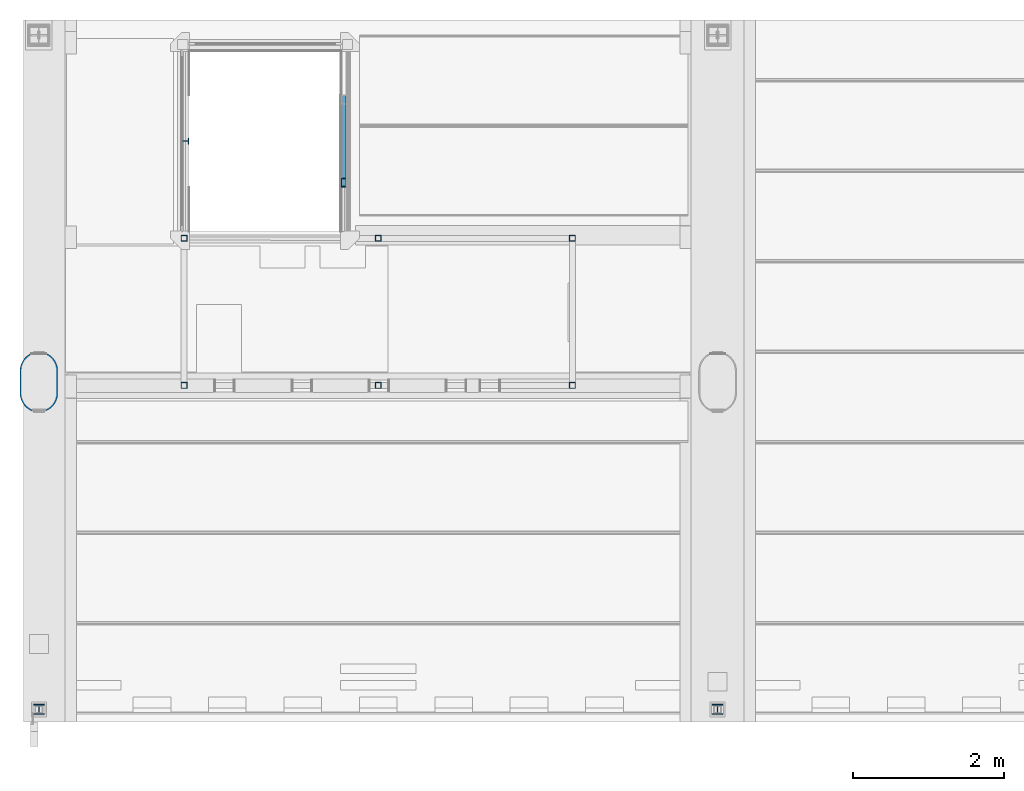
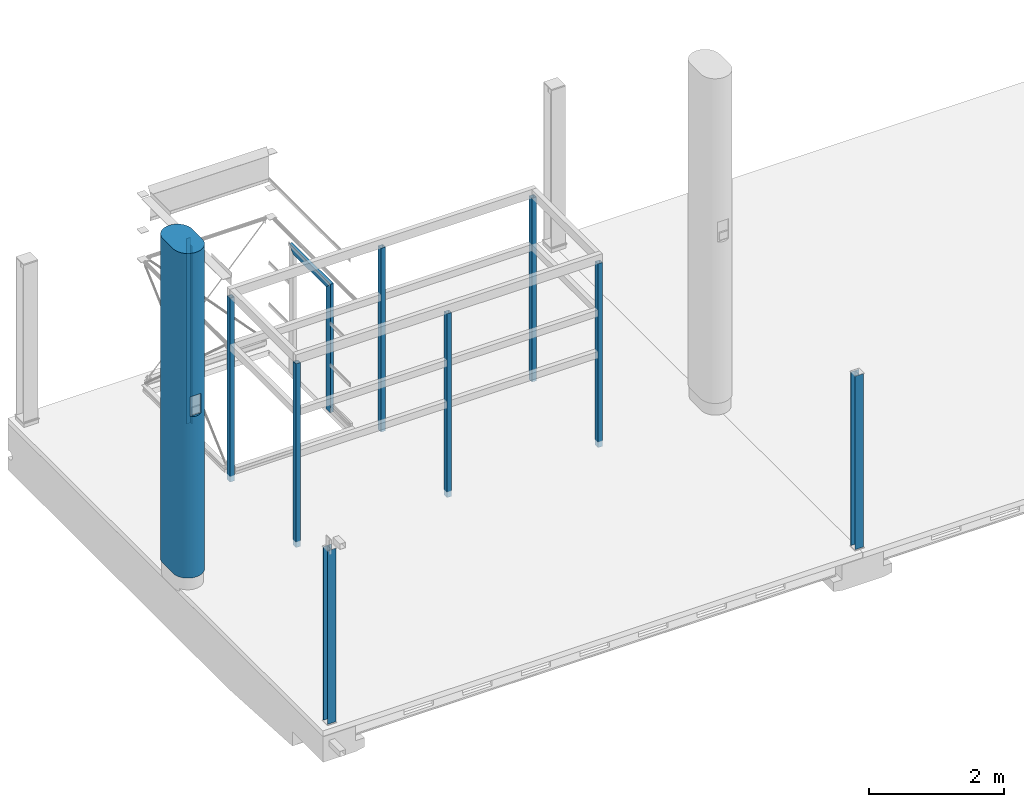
# One storey, part 1 of 15: 12 columns.
"""IFC2X3 building model written with IfcOpenShell, lengths in millimetres."""

from ifc_helpers import new_model, entity, si_unit, converted_unit, derived_unit, direction, frame, origin_with_axes, place, context, subcontext, project, spatial, faceted_brep, material, type_object, element, save


model = new_model("IFC2X3")

# Units and contexts
model_context = context("Model", 3, precision=0.01, world=frame((0.0, 4.29681676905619e-09, 0.0)), true_north=direction((4.01073788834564e-13, 1.0)))
plan_context = context("Plan", 3, precision=0.01, world=frame((0.0, 4.29681676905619e-09, 0.0)), true_north=direction((4.01073788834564e-13, 1.0)))
body_context = subcontext(model_context, "Body", "Model", "MODEL_VIEW")
ifc_project = project(units=[converted_unit("PLANEANGLEUNIT", "DEGREE", entity("IfcPositiveLengthMeasure", 0.0174532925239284), si_unit("PLANEANGLEUNIT", "RADIAN"), dimensions=[0, 0, 0, 0, 0, 0, 0]), si_unit("AREAUNIT", "SQUARE_METRE"), si_unit("LENGTHUNIT", "METRE", prefix="MILLI"), si_unit("MASSUNIT", "GRAM", prefix="KILO"), si_unit("POWERUNIT", "WATT"), si_unit("PRESSUREUNIT", "PASCAL", prefix="KILO"), si_unit("FORCEUNIT", "NEWTON", prefix="KILO"), si_unit("ELECTRICVOLTAGEUNIT", "VOLT"), si_unit("ELECTRICCURRENTUNIT", "AMPERE"), si_unit("THERMODYNAMICTEMPERATUREUNIT", "DEGREE_CELSIUS"), si_unit("TIMEUNIT", "SECOND"), si_unit("VOLUMEUNIT", "CUBIC_METRE"), derived_unit("LINEARVELOCITYUNIT", [(si_unit("LENGTHUNIT", "METRE"), 1), (si_unit("TIMEUNIT", "SECOND"), -1)]), derived_unit("VOLUMETRICFLOWRATEUNIT", [(si_unit("VOLUMEUNIT", "CUBIC_METRE"), 1), (si_unit("TIMEUNIT", "SECOND"), -1)]), derived_unit("THERMALTRANSMITTANCEUNIT", [(si_unit("POWERUNIT", "WATT"), 1), (si_unit("THERMODYNAMICTEMPERATUREUNIT", "KELVIN"), -1), (si_unit("AREAUNIT", "SQUARE_METRE"), -1)]), derived_unit("SOUNDPRESSUREUNIT", [(si_unit("PRESSUREUNIT", "PASCAL"), 1)])], contexts=[model_context, plan_context])

# Site, building, storey
site_placement = place(None, frame((0.0, -4.29681676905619e-09, 0.0), z_axis=(0.0, 0.0, 1.0), x_axis=(1.0, 0.0, 0.0)))
site = spatial("IfcSite", under=ifc_project, at=site_placement, Name="Gardermoen", CompositionType="ELEMENT")
building_placement = place(site_placement, frame((0.0, 4.29681676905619e-09, 0.0), z_axis=(0.0, 0.0, 1.0), x_axis=(1.0, 0.0, 0.0)))
building = spatial("IfcBuilding", under=site, at=building_placement, Name="TG", CompositionType="ELEMENT")
storey_placement = place(building_placement, origin_with_axes())
storey = spatial("IfcBuildingStorey", under=building, at=storey_placement, Name="F", CompositionType="ELEMENT", Elevation=0.0)

# Columns
ifc_material_1 = material(Name="STEEL/S355")
column_type_1 = type_object("IfcColumnType", Name="UNP120", PredefinedType="NOTDEFINED")
column_1_placement = place(storey_placement, frame((326039.374340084, 466504.644980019, 212350.000343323), z_axis=(0.0, 0.0, -1.0), x_axis=(0.0, -1.0, 0.0)))
element("IfcColumn", 1, at=column_1_placement, inside=storey, type_object=column_type_1, material=ifc_material_1, Name="STÅLSØYLE", ObjectType="UNP120", context=body_context, shape_type="Brep", body=[
    faceted_brep([(-0.00011444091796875, 27.5, -60.0), (119.999885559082, 27.5, 60.0), (1099.62996003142, 27.5, 60.0), (1219.62996003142, 27.5, -60.0), (119.999885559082, -27.5, 60.0), (1099.62996003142, -27.5, 60.0), (113.199885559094, -27.5, 53.2000000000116), (1106.42996003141, -27.5, 53.2000000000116), (109.359885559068, 20.5, 49.359999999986), (1110.26996003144, 20.5, 49.359999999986), (10.639885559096, 20.5, -49.359999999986), (1208.98996003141, 20.5, -49.359999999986), (6.79988555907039, -27.5, -53.2000000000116), (1212.82996003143, -27.5, -53.2000000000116), (-0.00011444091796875, -27.5, -60.0), (1219.62996003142, -27.5, -60.0)], [[[0, 1, 2, 3]], [[1, 4, 5, 2]], [[4, 6, 7, 5]], [[6, 8, 9, 7]], [[8, 10, 11, 9]], [[10, 12, 13, 11]], [[12, 14, 15, 13]], [[14, 0, 3, 15]], [[5, 7, 9, 11, 13, 15, 3, 2]], [[14, 12, 10, 8, 6, 4, 1, 0]]]),
])
column_2_placement = place(storey_placement, frame((326039.374340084, 465345.015019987, 212385.001564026), z_axis=(0.0, 1.0, 0.0), x_axis=(0.0, 0.0, -1.0)))
element("IfcColumn", 2, at=column_2_placement, inside=storey, type_object=column_type_1, material=ifc_material_1, Name="STÅLSØYLE", ObjectType="UNP120", context=body_context, shape_type="Brep", body=[
    faceted_brep([(-24.998779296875, 27.5, -60.0), (95.001220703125, 27.5, 60.0), (2290.0013923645, 27.5, 60.0), (2290.0013923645, 27.5, -60.0), (95.001220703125, -27.5, 60.0), (2290.0013923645, -27.5, 60.0), (88.2012207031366, -27.5, 53.2000000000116), (2290.0013923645, -27.5, 53.2000000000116), (84.361220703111, 20.5, 49.359999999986), (2290.0013923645, 20.5, 49.359999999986), (-14.358779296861, 20.5, -49.359999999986), (2290.0013923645, 20.5, -49.359999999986), (-18.1987792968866, -27.5, -53.2000000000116), (2290.0013923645, -27.5, -53.2000000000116), (-24.998779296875, -27.5, -60.0), (2290.0013923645, -27.5, -60.0)], [[[0, 1, 2, 3]], [[1, 4, 5, 2]], [[4, 6, 7, 5]], [[6, 8, 9, 7]], [[8, 10, 11, 9]], [[10, 12, 13, 11]], [[12, 14, 15, 13]], [[14, 0, 3, 15]], [[5, 7, 9, 11, 13, 15, 3, 2]], [[14, 12, 10, 8, 6, 4, 1, 0]]]),
])
column_type_2 = type_object("IfcColumnType", Name="T80", PredefinedType="NOTDEFINED")
column_3_placement = place(storey_placement, frame((323948.005191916, 465894.645361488, 213604.999923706), z_axis=(1.0, 0.0, 0.0), x_axis=(0.0, 0.0, -1.0)))
element("IfcColumn", 3, at=column_3_placement, inside=storey, type_object=column_type_2, material=ifc_material_1, Name="STÅLSØYLE", ObjectType="T80", context=body_context, shape_type="Brep", body=[
    faceted_brep([(137.901870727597, -4.5, 31.0), (137.901870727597, 4.5, 31.0), (0.0, 4.5, 31.0), (0.0, -4.5, 31.0), (137.901870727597, -40.0, 39.9999999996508), (137.901870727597, 40.0, 40.0), (137.901870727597, 40.0, 31.0), (137.901870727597, -40.0, 31.0), (0.0, -4.5, -40.0), (0.0, 4.5, -40.0), (3344.99979019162, 4.5, -40.0), (3344.99979019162, -4.5, -40.0), (3344.99979019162, 40.0, 31.0), (3344.99979019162, 40.0, 40.0), (3344.99979019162, -40.0, 40.0), (3344.99979019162, -40.0, 31.0), (3344.99979019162, -4.5, 31.0), (3344.99979019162, 4.5, 31.0)], [[[0, 1, 2, 3]], [[4, 5, 6, 1, 0, 7]], [[8, 9, 10, 11]], [[12, 13, 14, 15, 16, 11, 10, 17]], [[15, 14, 4, 7]], [[16, 15, 7, 0]], [[8, 11, 16, 0, 3]], [[9, 8, 3, 2]], [[17, 10, 9, 2, 1]], [[12, 17, 1, 6]], [[13, 12, 6, 5]], [[14, 13, 5, 4]]]),
])
column_type_3 = type_object("IfcColumnType", Name="RHS80*80*5", PredefinedType="NOTDEFINED")
for number, where, z_axis, x_axis in (
    (4, (326500.0, 464605.0, 210025.0), (-1.0, 0.0, 0.0), (0.0, 0.0, 1.0)),
    (5, (326500.0, 462655.0, 210025.0), (-1.0, 0.0, 0.0), (0.0, 0.0, 1.0)),
    (6, (329075.0, 464605.0, 210025.0), (1.0, 0.0, 0.0), (0.0, 0.0, 1.0)),
    (7, (329075.0, 462655.0, 210025.0), (1.0, 0.0, 0.0), (0.0, 0.0, 1.0)),
    (8, (323925.0, 464605.0, 210025.0), (-1.0, 0.0, 0.0), (0.0, 0.0, 1.0)),
    (9, (323925.0, 462655.0, 210025.0), (-1.0, 0.0, 0.0), (0.0, 0.0, 1.0)),
):
    element("IfcColumn", number, at=place(storey_placement, frame(where, z_axis=z_axis, x_axis=x_axis)), inside=storey, type_object=column_type_3, material=ifc_material_1, Name="STÅLSØYLE", ObjectType="RHS80*80*5", context=body_context, shape_type="Brep", body=[
        faceted_brep([(3.78349795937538e-10, 35.0000000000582, -35.0), (-4.36557456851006e-10, -34.9999999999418, -35.0), (3315.0, -35.0, -35.0), (3315.0, 35.0, -35.0), (-4.36557456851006e-10, -34.9999999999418, 35.0), (3315.0, -35.0, 35.0), (3.78349795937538e-10, 35.0000000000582, 35.0), (3315.0, 35.0, 35.0), (0.0, 40.0, -40.0), (4.98403096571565e-10, 40.0000000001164, 40.0), (3315.0, 40.0, 40.0), (3315.0, 40.0, -40.0), (-5.49334799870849e-10, -40.0000000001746, 40.0), (3315.0, -40.0, 40.0), (0.0, -40.0, -40.0), (3315.0, -40.0, -40.0)], [[[0, 1, 2, 3]], [[1, 4, 5, 2]], [[4, 6, 7, 5]], [[6, 0, 3, 7]], [[8, 9, 10, 11]], [[9, 12, 13, 10]], [[12, 14, 15, 13]], [[14, 8, 11, 15]], [[13, 15, 11, 10], [5, 7, 3, 2]], [[14, 12, 9, 8], [6, 4, 1, 0]]]),
    ])
ifc_material_2 = material(Name="CONCRETE/C45/55")
column_type_4 = type_object("IfcColumnType", Name="AAJOVAL500*800", PredefinedType="NOTDEFINED")
column_4_placement = place(storey_placement, frame((321999.999766, 462700.004375, 210350.0), z_axis=(0.0, -1.0, 0.0), x_axis=(0.0, 0.0, 1.0)))
element("IfcColumn", 10, at=column_4_placement, inside=storey, type_object=column_type_4, material=ifc_material_2, Name="PREFABSØYLE", ObjectType="AAJOVAL500*800", context=body_context, shape_type="Brep", body=[
    faceted_brep([(2947.0, -99.9999999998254, -368.991249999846), (2947.0, 100.000000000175, -368.991249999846), (3297.0, 100.000000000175, -368.991249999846), (3297.0, -99.9999999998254, -368.991249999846), (2947.0, 99.9629609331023, -378.991249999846), (2947.0, -100.037039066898, -378.991249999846), (3297.0, 99.9629609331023, -378.991249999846), (3297.0, -99.9999999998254, -378.991249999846), (5856.0, -52.6698174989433, -394.388809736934), (5856.0, -73.205692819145, -389.041683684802), (3304.17888120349, -73.205692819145, -389.041683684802), (3307.99825695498, -52.6698174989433, -394.388809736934), (5856.0, -31.7544549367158, -397.975108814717), (3310.55989915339, -31.7544549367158, -397.975108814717), (5856.0, -10.6103007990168, -399.77474155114), (3312.0, -10.6103007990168, -399.991249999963), (5856.0, 10.6103007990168, -399.77474155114), (3312.0, 10.6103007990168, -399.77474155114), (5856.0, 31.7544549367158, -397.975108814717), (3310.55989915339, 31.7544549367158, -397.975108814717), (5856.0, 52.6698174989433, -394.388809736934), (3307.99825695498, 52.6698174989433, -394.388809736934), (5856.0, 73.205692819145, -389.041683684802), (3304.17888120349, 73.205692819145, -389.041683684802), (5856.0, 93.2141194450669, -381.972256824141), (3299.12929058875, 93.2141194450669, -381.972256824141), (0.0, 250.0, -150.0), (0.0, 250.0, 150.0), (5856.0, 250.0, 150.0), (5856.0, 250.0, -150.0), (0.0, 249.09937213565, -171.201481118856), (5856.0, 249.09937213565, -171.201481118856), (0.0, 246.403977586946, -192.250205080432), (5856.0, 246.403977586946, -192.250205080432), (0.0, 241.93323673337, -212.994515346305), (5856.0, 241.93323673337, -212.994515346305), (0.0, 235.719361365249, -233.284948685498), (5856.0, 235.719361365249, -233.284948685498), (0.0, 227.807122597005, -252.975312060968), (5856.0, 227.807122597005, -252.975312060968), (0.0, 218.253528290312, -271.923735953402), (5856.0, 218.253528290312, -271.923735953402), (0.0, 207.127412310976, -289.993696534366), (5856.0, 207.127412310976, -289.993696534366), (0.0, 194.508938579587, -307.054999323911), (5856.0, 194.508938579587, -307.054999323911), (0.0, 180.489023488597, -322.984717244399), (5856.0, 180.489023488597, -322.984717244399), (0.0, 165.168680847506, -337.668076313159), (5856.0, 165.168680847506, -337.668076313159), (0.0, 148.658294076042, -350.999282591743), (5856.0, 148.658294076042, -350.999282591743), (0.0, 131.076820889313, -362.882284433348), (5856.0, 131.076820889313, -362.882284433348), (0.0, 112.550936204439, -373.231464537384), (5856.0, 112.550936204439, -373.231464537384), (0.0, 73.205692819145, -389.041683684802), (0.0, 93.2141194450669, -381.972256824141), (2944.87070941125, 93.2141194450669, -381.972256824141), (2939.82111879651, 73.205692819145, -389.041683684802), (0.0, 52.6698174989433, -394.388809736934), (2936.00174304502, 52.6698174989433, -394.388809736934), (0.0, 31.7544549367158, -397.975108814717), (2933.44010084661, 31.7544549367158, -397.975108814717), (0.0, 10.6103007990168, -399.77474155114), (2932.0, 10.6103007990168, -399.77474155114), (0.0, -10.6103007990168, -399.77474155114), (2932.0, -10.6103007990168, -399.77474155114), (0.0, -31.7544549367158, -397.975108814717), (2933.44010084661, -31.7544549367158, -397.975108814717), (0.0, -52.6698174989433, -394.388809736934), (2936.00174304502, -52.6698174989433, -394.388809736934), (0.0, -73.205692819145, -389.041683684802), (2939.82111879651, -73.205692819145, -389.041683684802), (0.0, -93.2141194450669, -381.972256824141), (2944.87070941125, -93.2141194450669, -381.972256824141), (0.0, -52.6698174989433, 394.388809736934), (0.0, -73.205692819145, 389.041683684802), (2907.82736879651, -73.205692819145, 389.041683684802), (2904.00799304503, -52.6698174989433, 394.388809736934), (0.0, -31.7544549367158, 397.975108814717), (2901.44635084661, -31.7544549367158, 397.975108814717), (0.0, -10.6103007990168, 399.77474155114), (2900.0, -10.6103007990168, 399.77474155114), (0.0, 10.6103007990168, 399.77474155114), (2900.0, 10.6103007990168, 399.77474155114), (0.0, 31.7544549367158, 397.975108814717), (2901.44635084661, 31.7544549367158, 397.975108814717), (0.0, 52.6698174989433, 394.388809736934), (2904.00799304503, 52.6698174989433, 394.388809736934), (0.0, 73.205692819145, 389.041683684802), (2907.82736879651, 73.205692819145, 389.041683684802), (0.0, -112.550936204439, -373.231464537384), (0.0, -131.076820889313, -362.882284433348), (0.0, -148.6582940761, -350.999282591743), (0.0, -165.168680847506, -337.668076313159), (0.0, -180.489023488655, -322.984717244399), (0.0, -194.508938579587, -307.054999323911), (0.0, -207.127412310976, -289.993696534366), (0.0, -218.253528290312, -271.923735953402), (0.0, -227.807122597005, -252.975312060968), (0.0, -235.719361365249, -233.284948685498), (0.0, -241.93323673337, -212.994515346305), (0.0, -246.403977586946, -192.250205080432), (0.0, -249.09937213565, -171.201481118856), (0.0, -250.0, -150.0), (0.0, -250.0, 150.0), (0.0, -249.09937213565, 171.201481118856), (0.0, -246.403977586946, 192.250205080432), (0.0, -241.93323673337, 212.994515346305), (0.0, -235.719361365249, 233.284948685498), (0.0, -227.807122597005, 252.975312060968), (0.0, -218.253528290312, 271.923735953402), (0.0, -207.127412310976, 289.993696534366), (0.0, -194.508938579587, 307.054999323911), (0.0, -180.489023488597, 322.984717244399), (0.0, -165.168680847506, 337.668076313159), (0.0, -148.658294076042, 350.999282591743), (0.0, -131.076820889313, 362.882284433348), (0.0, -112.550936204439, 373.231464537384), (0.0, -93.2141194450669, 381.972256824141), (0.0, 93.2141194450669, 381.972256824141), (0.0, 112.550936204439, 373.231464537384), (0.0, 131.076820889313, 362.882284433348), (0.0, 148.6582940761, 350.999282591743), (0.0, 165.168680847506, 337.668076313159), (0.0, 180.489023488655, 322.984717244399), (0.0, 194.508938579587, 307.054999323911), (0.0, 207.127412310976, 289.993696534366), (0.0, 218.253528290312, 271.923735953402), (0.0, 227.807122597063, 252.975312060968), (0.0, 235.719361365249, 233.284948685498), (0.0, 241.93323673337, 212.994515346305), (0.0, 246.403977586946, 192.250205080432), (0.0, 249.09937213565, 171.201481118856), (5856.0, -112.550936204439, -373.231464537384), (5856.0, -131.076820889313, -362.882284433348), (5856.0, -148.6582940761, -350.999282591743), (5856.0, -165.168680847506, -337.668076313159), (5856.0, -180.489023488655, -322.984717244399), (5856.0, -194.508938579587, -307.054999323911), (5856.0, -207.127412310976, -289.993696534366), (5856.0, -218.253528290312, -271.923735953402), (5856.0, -227.807122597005, -252.975312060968), (5856.0, -235.719361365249, -233.284948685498), (5856.0, -241.93323673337, -212.994515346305), (5856.0, -246.403977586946, -192.250205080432), (5856.0, -249.09937213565, -171.201481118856), (5856.0, -250.0, -150.0), (5856.0, -250.0, 150.0), (5856.0, -249.09937213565, 171.201481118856), (5856.0, -246.403977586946, 192.250205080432), (5856.0, -241.93323673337, 212.994515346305), (5856.0, -235.719361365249, 233.284948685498), (5856.0, -227.807122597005, 252.975312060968), (5856.0, -218.253528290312, 271.923735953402), (5856.0, -207.127412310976, 289.993696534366), (5856.0, -194.508938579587, 307.054999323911), (5856.0, -180.489023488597, 322.984717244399), (5856.0, -165.168680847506, 337.668076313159), (5856.0, -148.658294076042, 350.999282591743), (5856.0, -131.076820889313, 362.882284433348), (5856.0, -112.550936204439, 373.231464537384), (5856.0, -93.2141194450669, 381.972256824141), (5856.0, 52.6698174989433, 394.388809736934), (5856.0, 73.205692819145, 389.041683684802), (3272.17263120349, 73.205692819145, 389.041683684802), (3275.99200695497, 52.6698174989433, 394.388809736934), (5856.0, 31.7544549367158, 397.975108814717), (3278.55364915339, 31.7544549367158, 397.975108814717), (5856.0, 10.6103007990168, 399.77474155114), (3280.0, 10.6103007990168, 399.77474155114), (5856.0, -10.6103007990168, 399.77474155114), (3280.0, -10.6103007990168, 400.0), (5856.0, -31.7544549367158, 397.975108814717), (3278.55364915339, -31.7544549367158, 397.975108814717), (5856.0, -52.6698174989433, 394.388809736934), (3275.99200695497, -52.6698174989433, 394.388809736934), (5856.0, -73.205692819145, 389.041683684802), (3272.17263120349, -73.205692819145, 389.041683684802), (2912.49638045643, -91.7061187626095, 382.505067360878), (3267.50361954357, -91.7061187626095, 382.505067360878), (3265.0, -89.9999999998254, 378.999999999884), (2915.0, -90.0370390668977, 378.999999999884), (2912.48037758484, 91.6427092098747, 382.527471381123), (2915.0, 89.9629609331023, 378.999999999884), (3267.51962241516, 91.6427092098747, 382.527471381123), (3265.0, 89.9629609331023, 378.999999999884), (2915.0, 90.0000000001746, 358.999999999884), (2915.0, -89.9999999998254, 358.999999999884), (3265.0, -89.9999999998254, 358.999999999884), (3265.0, 90.0000000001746, 358.999999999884), (5856.0, 93.2141194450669, 381.972256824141), (5856.0, 112.550936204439, 373.231464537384), (5856.0, 131.076820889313, 362.882284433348), (5856.0, 148.6582940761, 350.999282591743), (5856.0, 165.168680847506, 337.668076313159), (5856.0, 180.489023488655, 322.984717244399), (5856.0, 194.508938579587, 307.054999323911), (5856.0, 207.127412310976, 289.993696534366), (5856.0, 218.253528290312, 271.923735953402), (5856.0, 227.807122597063, 252.975312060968), (5856.0, 235.719361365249, 233.284948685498), (5856.0, 241.93323673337, 212.994515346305), (5856.0, 246.403977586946, 192.250205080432), (5856.0, 249.09937213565, 171.201481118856), (5856.0, -93.2141194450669, -381.972256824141), (3299.12929058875, -93.2141194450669, -381.972256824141)], [[[0, 1, 2, 3]], [[4, 1, 0, 5]], [[6, 2, 1, 4]], [[7, 3, 2, 6]], [[5, 0, 3, 7]], [[8, 9, 10, 11]], [[12, 8, 11, 13]], [[14, 12, 13, 15]], [[16, 14, 15, 17]], [[18, 16, 17, 19]], [[20, 18, 19, 21]], [[22, 20, 21, 23]], [[24, 22, 23, 25]], [[26, 27, 28, 29]], [[30, 26, 29, 31]], [[32, 30, 31, 33]], [[34, 32, 33, 35]], [[36, 34, 35, 37]], [[38, 36, 37, 39]], [[40, 38, 39, 41]], [[42, 40, 41, 43]], [[44, 42, 43, 45]], [[46, 44, 45, 47]], [[48, 46, 47, 49]], [[50, 48, 49, 51]], [[52, 50, 51, 53]], [[54, 52, 53, 55]], [[56, 57, 58, 59]], [[60, 56, 59, 61]], [[62, 60, 61, 63]], [[64, 62, 63, 65]], [[66, 64, 65, 67]], [[68, 66, 67, 69]], [[70, 68, 69, 71]], [[72, 70, 71, 73]], [[74, 72, 73, 75]], [[76, 77, 78, 79]], [[80, 76, 79, 81]], [[82, 80, 81, 83]], [[84, 82, 83, 85]], [[86, 84, 85, 87]], [[88, 86, 87, 89]], [[90, 88, 89, 91]], [[26, 30, 32, 34, 36, 38, 40, 42, 44, 46, 48, 50, 52, 54, 57, 56, 60, 62, 64, 66, 68, 70, 72, 74, 92, 93, 94, 95, 96, 97, 98, 99, 100, 101, 102, 103, 104, 105, 106, 107, 108, 109, 110, 111, 112, 113, 114, 115, 116, 117, 118, 119, 120, 77, 76, 80, 82, 84, 86, 88, 90, 121, 122, 123, 124, 125, 126, 127, 128, 129, 130, 131, 132, 133, 134, 27]], [[93, 92, 135, 136]], [[94, 93, 136, 137]], [[95, 94, 137, 138]], [[96, 95, 138, 139]], [[97, 96, 139, 140]], [[98, 97, 140, 141]], [[99, 98, 141, 142]], [[100, 99, 142, 143]], [[101, 100, 143, 144]], [[102, 101, 144, 145]], [[103, 102, 145, 146]], [[104, 103, 146, 147]], [[105, 104, 147, 148]], [[106, 105, 148, 149]], [[107, 106, 149, 150]], [[108, 107, 150, 151]], [[109, 108, 151, 152]], [[110, 109, 152, 153]], [[111, 110, 153, 154]], [[112, 111, 154, 155]], [[113, 112, 155, 156]], [[114, 113, 156, 157]], [[115, 114, 157, 158]], [[116, 115, 158, 159]], [[117, 116, 159, 160]], [[118, 117, 160, 161]], [[119, 118, 161, 162]], [[120, 119, 162, 163]], [[164, 165, 166, 167]], [[168, 164, 167, 169]], [[170, 168, 169, 171]], [[172, 170, 171, 173]], [[174, 172, 173, 175]], [[176, 174, 175, 177]], [[178, 176, 177, 179]], [[180, 78, 77, 120, 163, 178, 179, 181]], [[180, 181, 182, 183]], [[184, 91, 89, 87, 85, 83, 81, 79, 78, 180, 183, 185]], [[186, 184, 185, 187]], [[188, 189, 190, 191]], [[185, 188, 191, 187]], [[183, 189, 188, 185]], [[182, 190, 189, 183]], [[187, 191, 190, 182]], [[181, 179, 177, 175, 173, 171, 169, 167, 166, 186, 187, 182]], [[165, 192, 121, 90, 91, 184, 186, 166]], [[122, 121, 192, 193]], [[123, 122, 193, 194]], [[124, 123, 194, 195]], [[125, 124, 195, 196]], [[126, 125, 196, 197]], [[127, 126, 197, 198]], [[128, 127, 198, 199]], [[129, 128, 199, 200]], [[130, 129, 200, 201]], [[131, 130, 201, 202]], [[132, 131, 202, 203]], [[133, 132, 203, 204]], [[134, 133, 204, 205]], [[27, 134, 205, 28]], [[204, 203, 202, 201, 200, 199, 198, 197, 196, 195, 194, 193, 192, 165, 164, 168, 170, 172, 174, 176, 178, 163, 162, 161, 160, 159, 158, 157, 156, 155, 154, 153, 152, 151, 150, 149, 148, 147, 146, 145, 144, 143, 142, 141, 140, 139, 138, 137, 136, 135, 206, 9, 8, 12, 14, 16, 18, 20, 22, 24, 55, 53, 51, 49, 47, 45, 43, 41, 39, 37, 35, 33, 31, 29, 28, 205]], [[9, 206, 207, 10]], [[25, 23, 21, 19, 17, 15, 13, 11, 10, 207, 7, 6]], [[58, 57, 54, 55, 24, 25, 6, 4]], [[75, 73, 71, 69, 67, 65, 63, 61, 59, 58, 4, 5]], [[207, 206, 135, 92, 74, 75, 5, 7]]]),
])
column_type_5 = type_object("IfcColumnType", Name="HEA140", PredefinedType="NOTDEFINED")
for number, where, z_axis, x_axis in (
    (11, (331000.0, 458358.0, 210130.0), (0.0, -1.0, 0.0), (0.0, 0.0, 1.0)),
    (12, (322000.0, 458358.0, 210130.0), (0.0, -1.0, 0.0), (0.0, 0.0, 1.0)),
):
    element("IfcColumn", number, at=place(storey_placement, frame(where, z_axis=z_axis, x_axis=x_axis)), inside=storey, type_object=column_type_5, material=ifc_material_1, Name="STÅLSØYLE", ObjectType="HEA140", context=body_context, shape_type="Brep", body=[
        faceted_brep([(15.0, 70.0, -66.5), (15.0, 70.0, -58.0), (3143.0, 70.0, -58.0), (3143.0, 70.0, -66.5), (15.0, 2.75, -58.0), (3143.0, 2.75, -58.0), (15.0, 2.75, 58.0), (3143.0, 2.75, 58.0), (15.0, 70.0, 58.0), (3143.0, 70.0, 58.0), (15.0, 70.0, 66.5), (3143.0, 70.0, 66.5), (15.0, -70.0, 66.5), (3143.0, -70.0, 66.5), (15.0, -70.0, 58.0), (3143.0, -70.0, 58.0), (15.0, -2.75, 58.0), (3143.0, -2.75, 58.0), (15.0, -2.75, -58.0), (3143.0, -2.75, -58.0), (15.0, -70.0, -58.0), (3143.0, -70.0, -58.0), (15.0, -70.0, -66.5), (3143.0, -70.0, -66.5)], [[[0, 1, 2, 3]], [[1, 4, 5, 2]], [[4, 6, 7, 5]], [[6, 8, 9, 7]], [[8, 10, 11, 9]], [[10, 12, 13, 11]], [[12, 14, 15, 13]], [[14, 16, 17, 15]], [[16, 18, 19, 17]], [[18, 20, 21, 19]], [[20, 22, 23, 21]], [[22, 0, 3, 23]], [[5, 7, 9, 11, 13, 15, 17, 19, 21, 23, 3, 2]], [[22, 20, 18, 16, 14, 12, 10, 8, 6, 4, 1, 0]]]),
    ])

save(model, "model.ifc")
